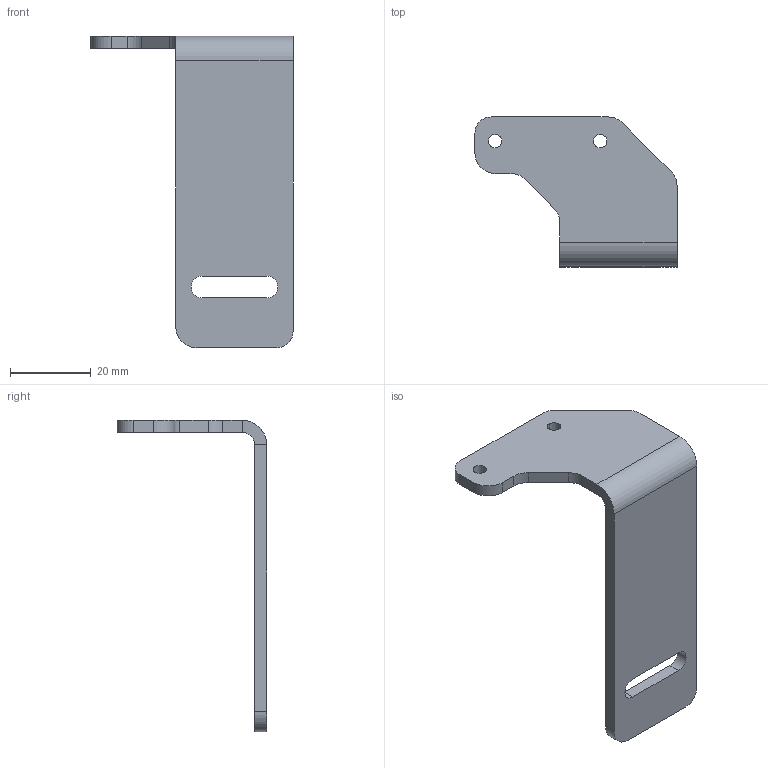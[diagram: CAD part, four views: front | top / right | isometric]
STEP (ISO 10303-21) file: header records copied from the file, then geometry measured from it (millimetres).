
FILE_DESCRIPTION (( 'STEP AP214' ), '1' );
FILE_NAME ('MAM13508 -XB- Tôle fixation chaine de cable X - porte Outil.STEP', '2024-12-18T14:07:27', ( '' ), ( '' ), 'SwSTEP 2.0', 'SolidWorks 2019', '' );
FILE_SCHEMA (( 'AUTOMOTIVE_DESIGN' ));
Length unit declared in the file: millimetre
Products named in the file (1): MAM13508 -XB- Tôle fixation chaine de cable X - porte Outil
Bounding box: 50 x 37 x 77 mm (x, y, z)
Volume: 9751.5 mm3; surface area: 7594.8 mm2
Topology: 1 solids, 1 shells, 34 faces, 88 edges, 56 vertices
Faces by surface type: plane 18, cylinder 16
Entity records: 1086 total; most frequent: DIRECTION 190, CARTESIAN_POINT 179, ORIENTED_EDGE 176, EDGE_CURVE 88, AXIS2_PLACEMENT_3D 67, LINE 56, VERTEX_POINT 56, VECTOR 56
